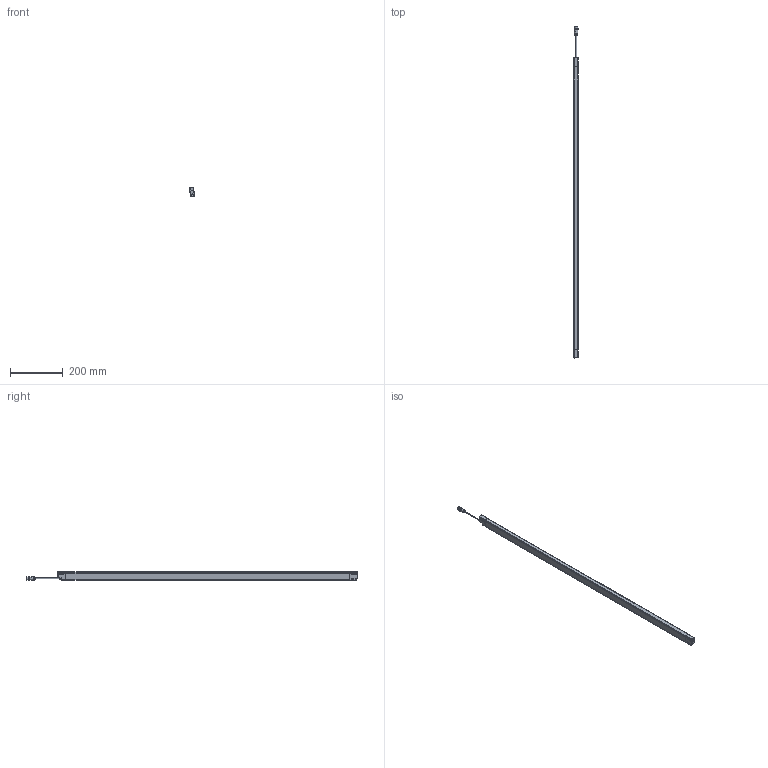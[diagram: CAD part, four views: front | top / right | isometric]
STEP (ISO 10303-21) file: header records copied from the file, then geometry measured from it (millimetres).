
FILE_DESCRIPTION(/* description */ (''),/* implementation_level */ '2;1');
FILE_NAME(/* name */ 'DSD-0653.stp',/* time_stamp */ '2015-02-23T17:54:41+01:00',/* author */ (''),/* organization */ (''),/* preprocessor_version */ 'ST-DEVELOPER v11',/* originating_system */ 'SIEMENS PLM Software NX 7.5',/* authorisation */ '');
FILE_SCHEMA (('AUTOMOTIVE_DESIGN { 1 0 10303 214 1 1 1 1 }'));
Length unit declared in the file: millimetre
Products named in the file (1): AP008175_00
Bounding box: 17.36 x 1260.24 x 33.46 mm (x, y, z)
Surface area: 135250.7 mm2 (no closed solid volume)
Topology: 0 solids, 40 shells, 1009 faces, 3416 edges, 2322 vertices
Faces by surface type: cylinder 381, plane 288, bspline 143, torus 110, sphere 60, cone 27
Full cylindrical faces by diameter (mm): 1 x5, 1.2 x2, 1.9 x1, 2.6 x6, 4 x1, 8.3 x1, 9.4 x1, 10.4 x1, 12 x1, 13 x1, 13.5 x1, 14.5 x2
Entity records: 42270 total; most frequent: CARTESIAN_POINT 13371, DIRECTION 6248, ORIENTED_EDGE 5311, EDGE_CURVE 3308, AXIS2_PLACEMENT_3D 2380, VERTEX_POINT 2296, LINE 1488, VECTOR 1488
